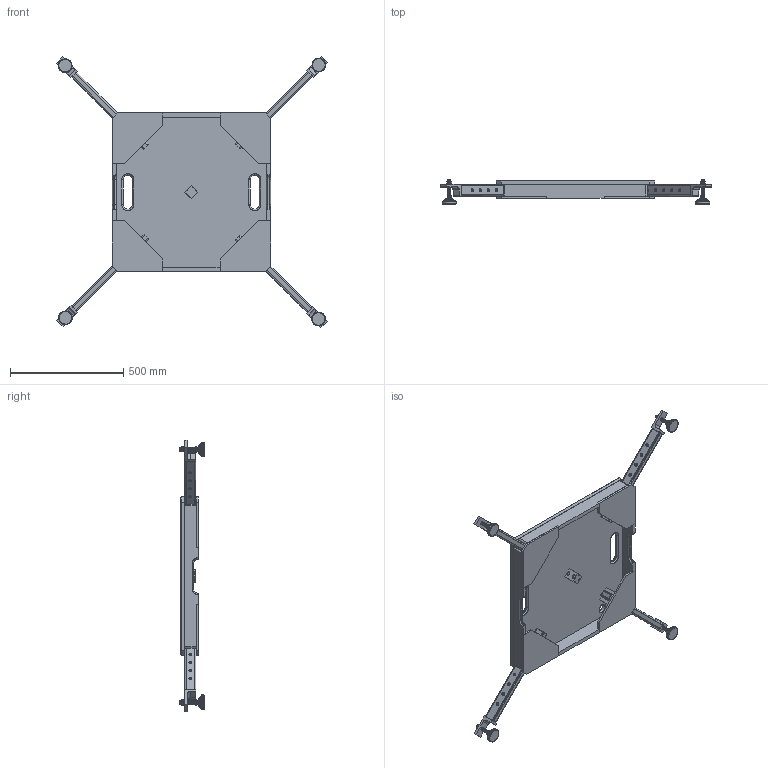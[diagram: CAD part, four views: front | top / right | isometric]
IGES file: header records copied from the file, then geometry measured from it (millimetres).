
Start section: SolidWorks IGES file using analytic representation for surfaces
Global section: file name: C:\Documents and Settings\Administrator\My Documents\Michl\SolidWorks\3d_Dateien_Homepage\Neue-Produkte\SEEBURG_Groundstackingboard.IGS; native system: SolidWorks 2009; preprocessor: SolidWorks 2009; author: Administrator; date: 140404.105247; units: millimetre
Bounding box: 1195.47 x 109.2 x 1197.11 mm (x, y, z)
Surface area: 2497873.9 mm2 (no closed solid volume)
Topology: 0 solids, 0 shells, 1782 faces, 17852 edges, 17848 vertices
Faces by surface type: revolution 1338, bspline 444
